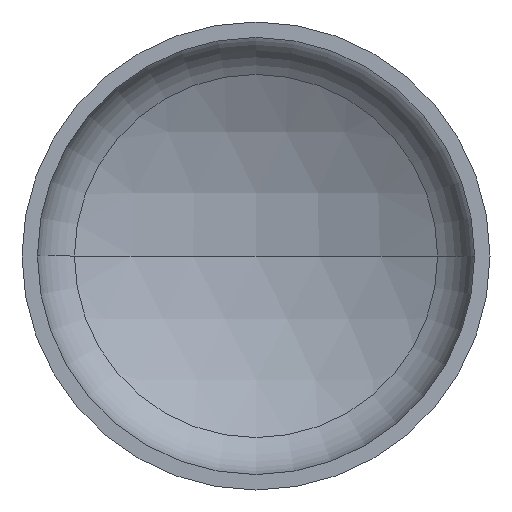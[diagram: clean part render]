
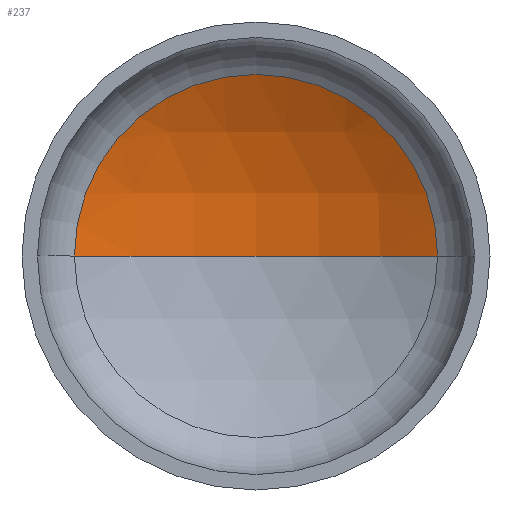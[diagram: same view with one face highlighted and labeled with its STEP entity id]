
A CAD part, front view. The second image highlights one B-rep face of the part: STEP entity #237.
In plain terms, the highlighted spherical face has radius 218 mm.
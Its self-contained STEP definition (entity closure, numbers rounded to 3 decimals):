
#2 = CARTESIAN_POINT ( 'NONE',  ( 0., -123.837, 0. ) ) ;
#5 = ORIENTED_EDGE ( 'NONE', *, *, #372, .T. ) ;
#6 = DIRECTION ( 'NONE',  ( -1., 0., 0. ) ) ;
#8 = AXIS2_PLACEMENT_3D ( 'NONE', #230, #389, #392 ) ;
#14 = SPHERICAL_SURFACE ( 'NONE', #122, 218. ) ;
#15 = AXIS2_PLACEMENT_3D ( 'NONE', #161, #303, #408 ) ;
#20 = EDGE_LOOP ( 'NONE', ( #99, #5, #89 ) ) ;
#31 = AXIS2_PLACEMENT_3D ( 'NONE', #113, #147, #158 ) ;
#45 = VERTEX_POINT ( 'NONE', #400 ) ;
#82 = VERTEX_POINT ( 'NONE', #240 ) ;
#86 = VERTEX_POINT ( 'NONE', #251 ) ;
#89 = ORIENTED_EDGE ( 'NONE', *, *, #382, .T. ) ;
#99 = ORIENTED_EDGE ( 'NONE', *, *, #375, .F. ) ;
#113 = CARTESIAN_POINT ( 'NONE',  ( 0., -123.837, 0. ) ) ;
#122 = AXIS2_PLACEMENT_3D ( 'NONE', #2, #176, #6 ) ;
#147 = DIRECTION ( 'NONE',  ( 0., 0., -1. ) ) ;
#158 = DIRECTION ( 'NONE',  ( -1., 0., 0. ) ) ;
#161 = CARTESIAN_POINT ( 'NONE',  ( 0., -123.837, 0. ) ) ;
#176 = DIRECTION ( 'NONE',  ( 0., 0., -1. ) ) ;
#230 = CARTESIAN_POINT ( 'NONE',  ( 0., 66.711, 0. ) ) ;
#237 = ADVANCED_FACE ( 'NONE', ( #309 ), #14, .F. ) ;
#240 = CARTESIAN_POINT ( 'NONE',  ( -105.903, 66.711, 0. ) ) ;
#251 = CARTESIAN_POINT ( 'NONE',  ( 0., 94.163, 0. ) ) ;
#271 = CIRCLE ( 'NONE', #31, 218. ) ;
#303 = DIRECTION ( 'NONE',  ( 0., 0., 1. ) ) ;
#309 = FACE_OUTER_BOUND ( 'NONE', #20, .T. ) ;
#328 = CIRCLE ( 'NONE', #8, 105.903 ) ;
#372 = EDGE_CURVE ( 'NONE', #86, #45, #271, .T. ) ;
#375 = EDGE_CURVE ( 'NONE', #86, #82, #394, .T. ) ;
#382 = EDGE_CURVE ( 'NONE', #45, #82, #328, .T. ) ;
#389 = DIRECTION ( 'NONE',  ( 0., -1., 0. ) ) ;
#392 = DIRECTION ( 'NONE',  ( 1., 0., 0. ) ) ;
#394 = CIRCLE ( 'NONE', #15, 218. ) ;
#400 = CARTESIAN_POINT ( 'NONE',  ( 105.903, 66.711, 0. ) ) ;
#408 = DIRECTION ( 'NONE',  ( 1., 0., 0. ) ) ;
